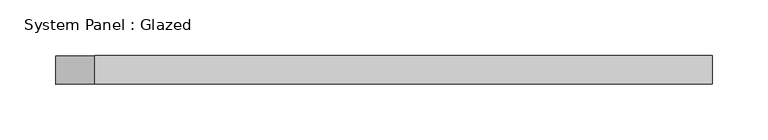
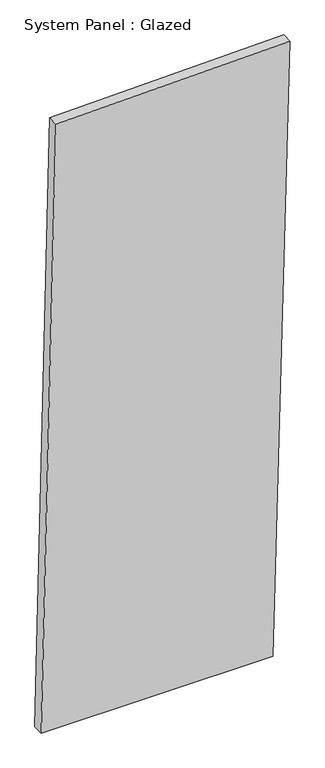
"""IFC4 building model written with IfcOpenShell, lengths in millimetres: plate geometry, System Panel : Glazed."""

from ifc_helpers import new_model, si_unit, frame, origin, place, context, project, spatial, polyline, outline, extrude, source, transform, mapped, element, save


def system_panel_glazed_b76e6c00(model_context):
    return source(origin(), model_context, "Body", "SweptSolid", [
        extrude(outline(polyline([(0.0, -293.6414966), (0.0, 253.9477032), (1519.2055561, 293.6414966), (1505.8333476, -258.8553566), (0.0, -293.6414966)])), frame((0.0, -44.45, 0.0), z_axis=(0.0, 1.0, 0.0), x_axis=(0.0, 0.0, 1.0)), (0.0, 0.0, 1.0), 25.4),
    ])


if __name__ == "__main__":
    model = new_model("IFC4")
    model_context = context("Model", 3, world=origin())
    ifc_project = project(units=[si_unit("LENGTHUNIT", "METRE", prefix="MILLI")], contexts=[model_context])
    site = spatial("IfcSite", under=ifc_project)
    building = spatial("IfcBuilding", under=site)
    placement = place(None, origin())
    system_panel_glazed_shape = system_panel_glazed_b76e6c00(model_context)
    element("IfcPlate", 1, ObjectType="System Panel : Glazed", at=placement, inside=building, context=model_context, shape_type="MappedRepresentation", body=[
        mapped(system_panel_glazed_shape, transform((0.0, 0.0, 0.0), x_axis=(1.0, 0.0, 0.0), y_axis=(0.0, 1.0, 0.0), z_axis=(0.0, 0.0, 1.0))),
    ])
    save(model, "model.ifc")
